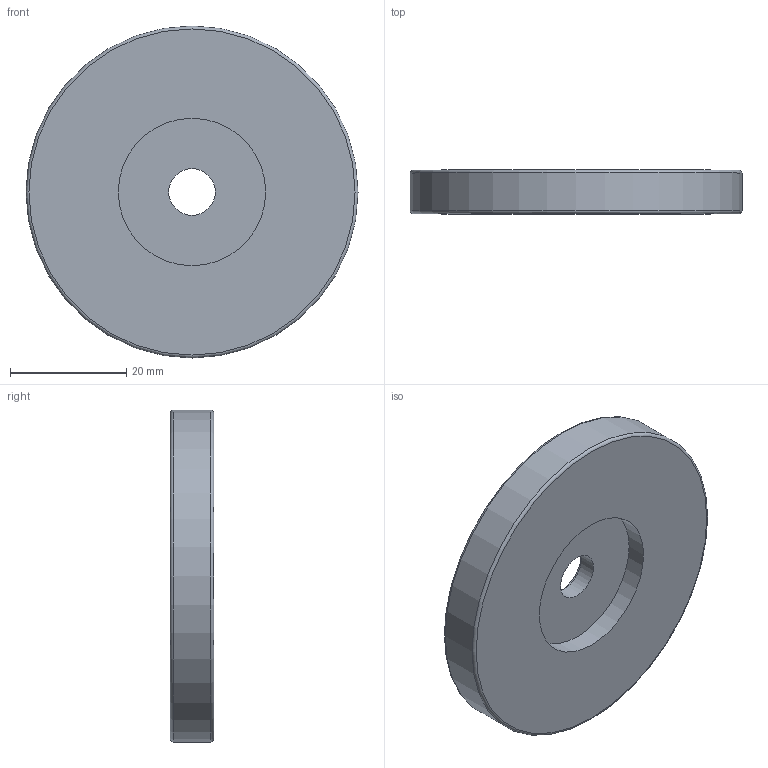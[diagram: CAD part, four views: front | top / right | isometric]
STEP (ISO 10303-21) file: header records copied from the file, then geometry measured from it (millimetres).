
FILE_DESCRIPTION( ( 'STEP AP203' ), '1' );
FILE_NAME( 'C:/Temp/Ganter_Step_05_03_2020/data/3_9/gn51_4/Retaining magnet GN 51.4-ND-57-WS.stp', '2020-03-10T07:42:02', ( 'License CC BY-ND 4.0' ), ( 'CADENAS' ), ' ', 'PARTsolutions', ' ' );
FILE_SCHEMA( ( 'CONFIG_CONTROL_DESIGN' ) );
Length unit declared in the file: millimetre
Products named in the file (1): _Retaining magnet GN 51.4-ND-57-WS
Bounding box: 57 x 7.5 x 57 mm (x, y, z)
Volume: 17130.2 mm3; surface area: 6653.9 mm2
Topology: 1 solids, 1 shells, 10 faces, 16 edges, 10 vertices
Faces by surface type: plane 4, cylinder 4, torus 2
Full cylindrical faces by diameter (mm): 8 x1, 10 x1, 25.3 x1, 57 x1
Entity records: 252 total; most frequent: DIRECTION 42, CARTESIAN_POINT 31, AXIS2_PLACEMENT_3D 21, EDGE_LOOP 20, ORIENTED_EDGE 20, FACE_OUTER_BOUND 16, ADVANCED_FACE 10, EDGE_CURVE 10
